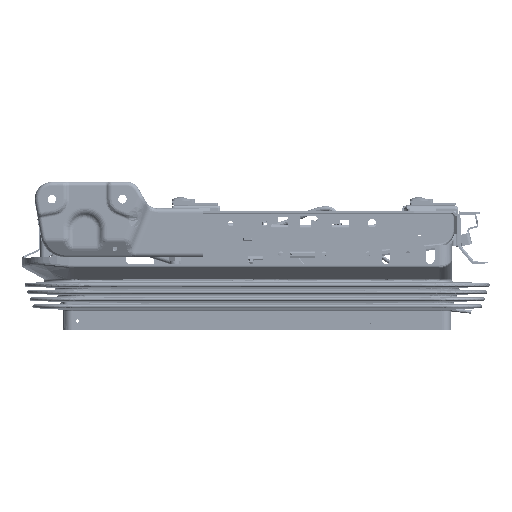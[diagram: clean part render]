
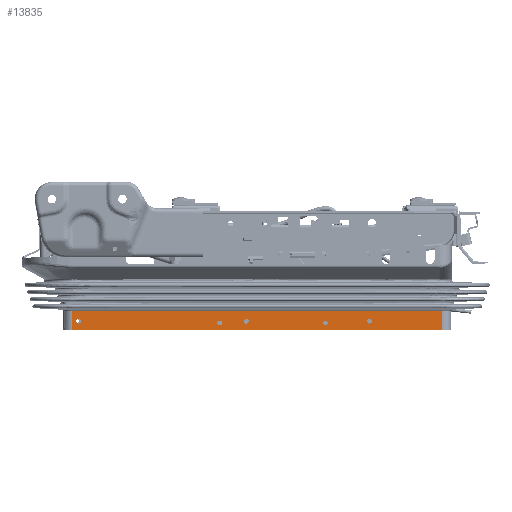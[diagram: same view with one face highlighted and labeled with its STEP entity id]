
A CAD part, front view. The second image highlights one B-rep face of the part: STEP entity #13835.
In plain terms, the highlighted planar face has unit normal (0, -1, 0).
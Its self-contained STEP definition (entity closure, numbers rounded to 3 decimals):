
#13725=AXIS2_PLACEMENT_3D('Plane Axis2P3D',#13722,#13723,#13724) ;
#13747=AXIS2_PLACEMENT_3D('Circle Axis2P3D',#13745,#13746,$) ;
#13756=AXIS2_PLACEMENT_3D('Circle Axis2P3D',#13754,#13755,$) ;
#13765=AXIS2_PLACEMENT_3D('Circle Axis2P3D',#13763,#13764,$) ;
#13774=AXIS2_PLACEMENT_3D('Circle Axis2P3D',#13772,#13773,$) ;
#13783=AXIS2_PLACEMENT_3D('Circle Axis2P3D',#13781,#13782,$) ;
#13792=AXIS2_PLACEMENT_3D('Circle Axis2P3D',#13790,#13791,$) ;
#13801=AXIS2_PLACEMENT_3D('Circle Axis2P3D',#13799,#13800,$) ;
#13810=AXIS2_PLACEMENT_3D('Circle Axis2P3D',#13808,#13809,$) ;
#13819=AXIS2_PLACEMENT_3D('Circle Axis2P3D',#13817,#13818,$) ;
#13828=AXIS2_PLACEMENT_3D('Circle Axis2P3D',#13826,#13827,$) ;
#12132=CARTESIAN_POINT('Vertex',(1099.55,-852.511,267.414)) ;
#12314=CARTESIAN_POINT('Control Point',(1099.55,-852.511,267.414)) ;
#12315=CARTESIAN_POINT('Control Point',(1087.882,-852.511,267.403)) ;
#12316=CARTESIAN_POINT('Control Point',(1076.215,-852.511,267.394)) ;
#12317=CARTESIAN_POINT('Control Point',(1064.495,-852.511,267.386)) ;
#12318=CARTESIAN_POINT('Control Point',(1041.067,-852.511,267.373)) ;
#12319=CARTESIAN_POINT('Control Point',(1017.639,-852.511,267.364)) ;
#12320=CARTESIAN_POINT('Control Point',(1005.879,-852.511,267.361)) ;
#12321=CARTESIAN_POINT('Control Point',(970.568,-852.511,267.352)) ;
#12322=CARTESIAN_POINT('Control Point',(935.258,-852.511,267.347)) ;
#12323=CARTESIAN_POINT('Control Point',(911.858,-852.511,267.346)) ;
#12324=CARTESIAN_POINT('Control Point',(876.547,-852.511,267.345)) ;
#12325=CARTESIAN_POINT('Control Point',(841.237,-852.511,267.347)) ;
#12326=CARTESIAN_POINT('Control Point',(829.477,-852.511,267.348)) ;
#12327=CARTESIAN_POINT('Control Point',(805.956,-852.511,267.352)) ;
#12328=CARTESIAN_POINT('Control Point',(782.436,-852.511,267.357)) ;
#12329=CARTESIAN_POINT('Control Point',(770.676,-852.511,267.36)) ;
#12330=CARTESIAN_POINT('Control Point',(747.156,-852.511,267.367)) ;
#12331=CARTESIAN_POINT('Control Point',(723.636,-852.511,267.378)) ;
#12332=CARTESIAN_POINT('Control Point',(711.876,-852.511,267.385)) ;
#12333=CARTESIAN_POINT('Control Point',(698.354,-852.511,267.394)) ;
#12334=CARTESIAN_POINT('Control Point',(684.833,-852.511,267.406)) ;
#12335=CARTESIAN_POINT('Control Point',(683.072,-852.511,267.407)) ;
#12336=CARTESIAN_POINT('Control Point',(681.311,-852.511,267.409)) ;
#12337=CARTESIAN_POINT('Control Point',(679.55,-852.511,267.41)) ;
#12338=CARTESIAN_POINT('Vertex',(679.55,-852.511,267.41)) ;
#13702=CARTESIAN_POINT('Line Origine',(1099.55,-852.511,257.776)) ;
#13706=CARTESIAN_POINT('Vertex',(1099.55,-852.511,246.276)) ;
#13722=CARTESIAN_POINT('Axis2P3D Location',(1099.55,-852.511,269.276)) ;
#13727=CARTESIAN_POINT('Line Origine',(889.55,-852.511,246.274)) ;
#13731=CARTESIAN_POINT('Vertex',(679.55,-852.511,246.273)) ;
#13734=CARTESIAN_POINT('Line Origine',(679.55,-852.511,256.841)) ;
#13745=CARTESIAN_POINT('Axis2P3D Location',(1017.05,-852.511,256.307)) ;
#13749=CARTESIAN_POINT('Vertex',(1019.8,-852.511,256.307)) ;
#13751=CARTESIAN_POINT('Vertex',(1014.3,-852.511,256.307)) ;
#13754=CARTESIAN_POINT('Axis2P3D Location',(1017.05,-852.511,256.307)) ;
#13763=CARTESIAN_POINT('Axis2P3D Location',(967.05,-852.511,254.307)) ;
#13767=CARTESIAN_POINT('Vertex',(964.3,-852.511,254.307)) ;
#13769=CARTESIAN_POINT('Vertex',(969.8,-852.511,254.307)) ;
#13772=CARTESIAN_POINT('Axis2P3D Location',(967.05,-852.511,254.307)) ;
#13781=CARTESIAN_POINT('Axis2P3D Location',(877.05,-852.511,256.307)) ;
#13785=CARTESIAN_POINT('Vertex',(879.463,-852.511,254.988)) ;
#13787=CARTESIAN_POINT('Vertex',(874.636,-852.511,257.625)) ;
#13790=CARTESIAN_POINT('Axis2P3D Location',(877.05,-852.511,256.307)) ;
#13799=CARTESIAN_POINT('Axis2P3D Location',(847.05,-852.511,254.307)) ;
#13803=CARTESIAN_POINT('Vertex',(844.3,-852.511,254.307)) ;
#13805=CARTESIAN_POINT('Vertex',(849.8,-852.511,254.307)) ;
#13808=CARTESIAN_POINT('Axis2P3D Location',(847.05,-852.511,254.307)) ;
#13817=CARTESIAN_POINT('Axis2P3D Location',(686.979,-852.511,256.304)) ;
#13821=CARTESIAN_POINT('Vertex',(684.229,-852.511,256.304)) ;
#13823=CARTESIAN_POINT('Vertex',(689.729,-852.511,256.304)) ;
#13826=CARTESIAN_POINT('Axis2P3D Location',(686.979,-852.511,256.304)) ;
#13703=DIRECTION('Vector Direction',(0.,0.,1.)) ;
#13723=DIRECTION('Axis2P3D Direction',(0.,1.,0.)) ;
#13724=DIRECTION('Axis2P3D XDirection',(-1.,0.,0.)) ;
#13728=DIRECTION('Vector Direction',(-1.,0.,0.)) ;
#13735=DIRECTION('Vector Direction',(0.,0.,1.)) ;
#13746=DIRECTION('Axis2P3D Direction',(0.,1.,0.)) ;
#13755=DIRECTION('Axis2P3D Direction',(0.,1.,0.)) ;
#13764=DIRECTION('Axis2P3D Direction',(0.,1.,0.)) ;
#13773=DIRECTION('Axis2P3D Direction',(0.,1.,0.)) ;
#13782=DIRECTION('Axis2P3D Direction',(0.,1.,0.)) ;
#13791=DIRECTION('Axis2P3D Direction',(0.,1.,0.)) ;
#13800=DIRECTION('Axis2P3D Direction',(0.,1.,0.)) ;
#13809=DIRECTION('Axis2P3D Direction',(0.,1.,0.)) ;
#13818=DIRECTION('Axis2P3D Direction',(0.,1.,0.)) ;
#13827=DIRECTION('Axis2P3D Direction',(0.,1.,0.)) ;
#13704=VECTOR('Line Direction',#13703,1.) ;
#13729=VECTOR('Line Direction',#13728,1.) ;
#13736=VECTOR('Line Direction',#13735,1.) ;
#13740=ORIENTED_EDGE('',*,*,#13733,.F.) ;
#13741=ORIENTED_EDGE('',*,*,#13708,.T.) ;
#13742=ORIENTED_EDGE('',*,*,#12340,.T.) ;
#13743=ORIENTED_EDGE('',*,*,#13738,.F.) ;
#13760=ORIENTED_EDGE('',*,*,#13753,.F.) ;
#13761=ORIENTED_EDGE('',*,*,#13758,.T.) ;
#13778=ORIENTED_EDGE('',*,*,#13771,.F.) ;
#13779=ORIENTED_EDGE('',*,*,#13776,.T.) ;
#13796=ORIENTED_EDGE('',*,*,#13789,.F.) ;
#13797=ORIENTED_EDGE('',*,*,#13794,.T.) ;
#13814=ORIENTED_EDGE('',*,*,#13807,.F.) ;
#13815=ORIENTED_EDGE('',*,*,#13812,.T.) ;
#13832=ORIENTED_EDGE('',*,*,#13825,.F.) ;
#13833=ORIENTED_EDGE('',*,*,#13830,.T.) ;
#13762=FACE_BOUND('',#13759,.T.) ;
#13780=FACE_BOUND('',#13777,.T.) ;
#13798=FACE_BOUND('',#13795,.T.) ;
#13816=FACE_BOUND('',#13813,.T.) ;
#13834=FACE_BOUND('',#13831,.T.) ;
#13835=ADVANCED_FACE('\X2\4EC54E3A793A610F56FEFF08\X0\15mm\X2\FF09\X0\',(#13744,#13762,#13780,#13798,#13816,#13834),#13726,.F.) ;
#12313=B_SPLINE_CURVE_WITH_KNOTS('',5,(#12314,#12315,#12316,#12317,#12318,#12319,#12320,#12321,#12322,#12323,#12324,#12325,#12326,#12327,#12328,#12329,#12330,#12331,#12332,#12333,#12334,#12335,#12336,#12337),.UNSPECIFIED.,.F.,.U.,(6,3,3,3,3,3,3,6),(119.155,201.663,284.824,451.357,534.516,617.676,700.836,713.293),.UNSPECIFIED.) ;
#13748=CIRCLE('generated circle',#13747,2.75) ;
#13757=CIRCLE('generated circle',#13756,2.75) ;
#13766=CIRCLE('generated circle',#13765,2.75) ;
#13775=CIRCLE('generated circle',#13774,2.75) ;
#13784=CIRCLE('generated circle',#13783,2.75) ;
#13793=CIRCLE('generated circle',#13792,2.75) ;
#13802=CIRCLE('generated circle',#13801,2.75) ;
#13811=CIRCLE('generated circle',#13810,2.75) ;
#13820=CIRCLE('generated circle',#13819,2.75) ;
#13829=CIRCLE('generated circle',#13828,2.75) ;
#12340=EDGE_CURVE('',#12133,#12339,#12313,.T.) ;
#13708=EDGE_CURVE('',#13707,#12133,#13705,.T.) ;
#13733=EDGE_CURVE('',#13707,#13732,#13730,.T.) ;
#13738=EDGE_CURVE('',#13732,#12339,#13737,.T.) ;
#13753=EDGE_CURVE('',#13750,#13752,#13748,.F.) ;
#13758=EDGE_CURVE('',#13750,#13752,#13757,.T.) ;
#13771=EDGE_CURVE('',#13768,#13770,#13766,.F.) ;
#13776=EDGE_CURVE('',#13768,#13770,#13775,.T.) ;
#13789=EDGE_CURVE('',#13786,#13788,#13784,.F.) ;
#13794=EDGE_CURVE('',#13786,#13788,#13793,.T.) ;
#13807=EDGE_CURVE('',#13804,#13806,#13802,.F.) ;
#13812=EDGE_CURVE('',#13804,#13806,#13811,.T.) ;
#13825=EDGE_CURVE('',#13822,#13824,#13820,.F.) ;
#13830=EDGE_CURVE('',#13822,#13824,#13829,.T.) ;
#13739=EDGE_LOOP('',(#13740,#13741,#13742,#13743)) ;
#13759=EDGE_LOOP('',(#13760,#13761)) ;
#13777=EDGE_LOOP('',(#13778,#13779)) ;
#13795=EDGE_LOOP('',(#13796,#13797)) ;
#13813=EDGE_LOOP('',(#13814,#13815)) ;
#13831=EDGE_LOOP('',(#13832,#13833)) ;
#13744=FACE_OUTER_BOUND('',#13739,.T.) ;
#13705=LINE('Line',#13702,#13704) ;
#13730=LINE('Line',#13727,#13729) ;
#13737=LINE('Line',#13734,#13736) ;
#13726=PLANE('Plane',#13725) ;
#12133=VERTEX_POINT('',#12132) ;
#12339=VERTEX_POINT('',#12338) ;
#13707=VERTEX_POINT('',#13706) ;
#13732=VERTEX_POINT('',#13731) ;
#13750=VERTEX_POINT('',#13749) ;
#13752=VERTEX_POINT('',#13751) ;
#13768=VERTEX_POINT('',#13767) ;
#13770=VERTEX_POINT('',#13769) ;
#13786=VERTEX_POINT('',#13785) ;
#13788=VERTEX_POINT('',#13787) ;
#13804=VERTEX_POINT('',#13803) ;
#13806=VERTEX_POINT('',#13805) ;
#13822=VERTEX_POINT('',#13821) ;
#13824=VERTEX_POINT('',#13823) ;
